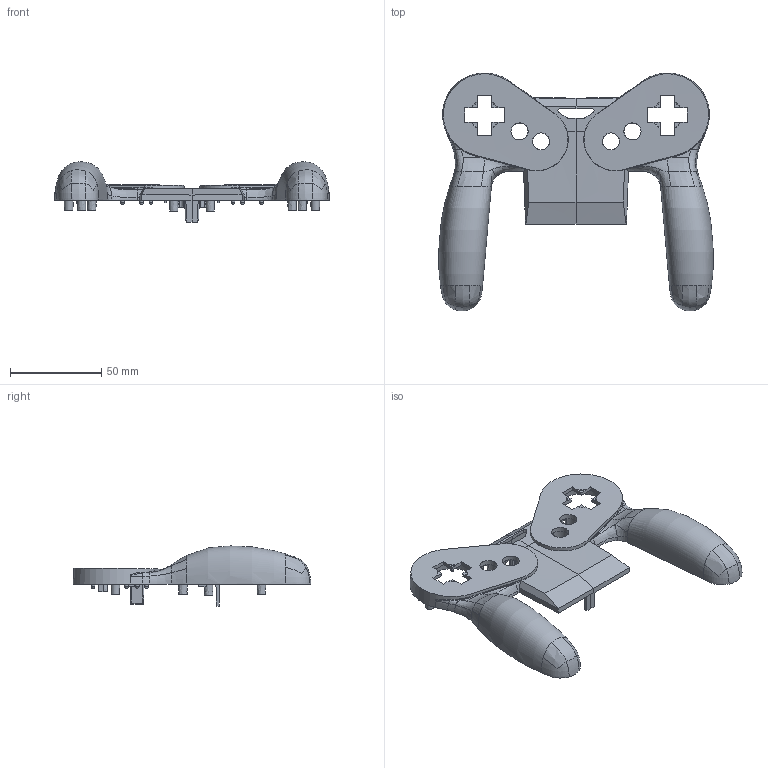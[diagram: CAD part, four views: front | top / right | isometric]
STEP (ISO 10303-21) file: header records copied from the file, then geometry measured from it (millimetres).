
FILE_DESCRIPTION(('STEP AP203'),'2;1');
FILE_NAME('Controller OT_unmodified.stp','2022-03-12T22:20:31',(''),(''),'2014.1.117','THINKDESIGN','');
FILE_SCHEMA(('CONFIG_CONTROL_DESIGN'));
Bounding box: 150.31 x 130.08 x 32.91 mm (x, y, z)
Volume: 41703 mm3; surface area: 45237.4 mm2
Topology: 1 solids, 1 shells, 750 faces, 2153 edges, 1437 vertices
Faces by surface type: bspline 466, plane 256, cylinder 28
Full cylindrical faces by diameter (mm): 1.4 x6, 2 x10
Entity records: 73031 total; most frequent: CARTESIAN_POINT 57165, ORIENTED_EDGE 4298, EDGE_CURVE 2149, DIRECTION 1632, VERTEX_POINT 1437, B_SPLINE_CURVE_WITH_KNOTS 992, EDGE_LOOP 800, FACE_OUTER_BOUND 750
